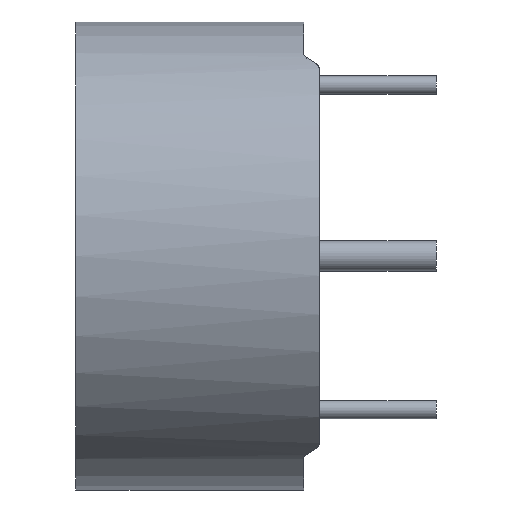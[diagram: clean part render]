
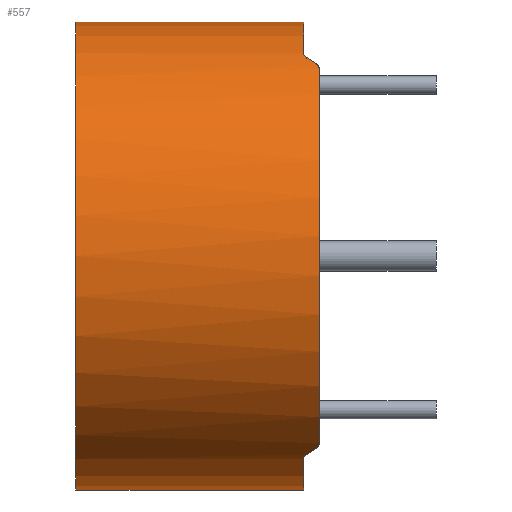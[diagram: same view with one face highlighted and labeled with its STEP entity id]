
A CAD part, left-side view. The second image highlights one B-rep face of the part: STEP entity #557.
In plain terms, the highlighted cylindrical face has radius 19.05 mm (diameter 38.1 mm), a partial arc.
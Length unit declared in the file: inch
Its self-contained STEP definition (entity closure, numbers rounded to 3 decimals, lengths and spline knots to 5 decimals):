
#28 = VERTEX_POINT ( 'NONE', #1427 ) ;
#60 = CARTESIAN_POINT ( 'NONE',  ( -0.44993, -0.39, -0.60006 ) ) ;
#83 = CARTESIAN_POINT ( 'NONE',  ( 0., 0.39, 0.75 ) ) ;
#173 = CARTESIAN_POINT ( 'NONE',  ( -0.42871, -0.38121, -0.61539 ) ) ;
#276 = LINE ( 'NONE', #1136, #8205 ) ;
#359 = ORIENTED_EDGE ( 'NONE', *, *, #7092, .T. ) ;
#473 = CARTESIAN_POINT ( 'NONE',  ( -0.42871, -0.38121, 0.61539 ) ) ;
#557 = ADVANCED_FACE ( 'NONE', ( #7185 ), #10107, .T. ) ;
#561 = CARTESIAN_POINT ( 'NONE',  ( -0.44993, -0.39, 0.60006 ) ) ;
#573 = VERTEX_POINT ( 'NONE', #4069 ) ;
#618 = VERTEX_POINT ( 'NONE', #3246 ) ;
#739 = DIRECTION ( 'NONE',  ( 0., 0., -1. ) ) ;
#744 = CARTESIAN_POINT ( 'NONE',  ( -0.37507, -0.34, -0.64948 ) ) ;
#778 = CARTESIAN_POINT ( 'NONE',  ( -0.40728, -0.35978, -0.62991 ) ) ;
#797 = CARTESIAN_POINT ( 'NONE',  ( 0., 0.39, 0. ) ) ;
#1079 = CARTESIAN_POINT ( 'NONE',  ( 0., -0.34, 0. ) ) ;
#1100 = EDGE_CURVE ( 'NONE', #5302, #573, #3540, .T. ) ;
#1136 = CARTESIAN_POINT ( 'NONE',  ( 0., 0.39, 0.75 ) ) ;
#1243 = AXIS2_PLACEMENT_3D ( 'NONE', #2590, #4744, #1828 ) ;
#1347 = CARTESIAN_POINT ( 'NONE',  ( -0.39336, -0.34586, -0.63857 ) ) ;
#1427 = CARTESIAN_POINT ( 'NONE',  ( -0.37507, -0.34, 0.64948 ) ) ;
#1555 = CARTESIAN_POINT ( 'NONE',  ( -0.41809, -0.37059, 0.62279 ) ) ;
#1828 = DIRECTION ( 'NONE',  ( 0., 0., 1. ) ) ;
#1834 = EDGE_CURVE ( 'NONE', #9110, #9541, #4935, .T. ) ;
#1853 = CARTESIAN_POINT ( 'NONE',  ( -0.42871, -0.38121, 0.61539 ) ) ;
#2039 = CARTESIAN_POINT ( 'NONE',  ( -0.39629, -0.34879, 0.63675 ) ) ;
#2055 = EDGE_CURVE ( 'NONE', #6347, #4600, #9904, .T. ) ;
#2059 = CARTESIAN_POINT ( 'NONE',  ( -0.42871, -0.38121, -0.61539 ) ) ;
#2070 = CARTESIAN_POINT ( 'NONE',  ( -0.37507, -0.34, -0.64948 ) ) ;
#2170 = CARTESIAN_POINT ( 'NONE',  ( -0.40728, -0.35978, 0.62991 ) ) ;
#2220 = CARTESIAN_POINT ( 'NONE',  ( -0.38274, -0.34073, -0.645 ) ) ;
#2221 = ORIENTED_EDGE ( 'NONE', *, *, #1834, .F. ) ;
#2306 = EDGE_CURVE ( 'NONE', #9541, #618, #276, .T. ) ;
#2315 = DIRECTION ( 'NONE',  ( 0., -1., 0. ) ) ;
#2489 = B_SPLINE_CURVE_WITH_KNOTS ( 'NONE', 3,
 ( #6659, #9009, #4306, #4212, #2568, #1853 ),
 .UNSPECIFIED., .F., .F.,
 ( 4, 2, 4 ),
 ( 0., 0.00036, 0.00071 ),
 .UNSPECIFIED. ) ;
#2568 = CARTESIAN_POINT ( 'NONE',  ( -0.43173, -0.38423, 0.61329 ) ) ;
#2590 = CARTESIAN_POINT ( 'NONE',  ( 0., -0.34, 0. ) ) ;
#2804 = CARTESIAN_POINT ( 'NONE',  ( -0.39045, -0.34295, 0.64039 ) ) ;
#2974 = CARTESIAN_POINT ( 'NONE',  ( -0.43472, -0.38722, -0.6112 ) ) ;
#3204 = CIRCLE ( 'NONE', #4348, 0.75 ) ;
#3246 = CARTESIAN_POINT ( 'NONE',  ( 0., -0.34, 0.75 ) ) ;
#3342 = CARTESIAN_POINT ( 'NONE',  ( 0., 0.39, -0.75 ) ) ;
#3535 = ORIENTED_EDGE ( 'NONE', *, *, #6886, .T. ) ;
#3540 = B_SPLINE_CURVE_WITH_KNOTS ( 'NONE', 3,
 ( #2070, #6112, #2220, #5346, #1347, #3601 ),
 .UNSPECIFIED., .F., .F.,
 ( 4, 2, 4 ),
 ( 0., 0.00034, 0.00067 ),
 .UNSPECIFIED. ) ;
#3601 = CARTESIAN_POINT ( 'NONE',  ( -0.39629, -0.34879, -0.63675 ) ) ;
#3721 =( BOUNDED_CURVE ( )  B_SPLINE_CURVE ( 3, ( #10004, #1555, #2170, #4683 ),
 .UNSPECIFIED., .F., .F. ) 
 B_SPLINE_CURVE_WITH_KNOTS ( ( 4, 4 ),
 ( 0.96232, 1.0141 ),
 .UNSPECIFIED. ) 
 CURVE ( )  GEOMETRIC_REPRESENTATION_ITEM ( )  RATIONAL_B_SPLINE_CURVE ( ( 1., 1., 1., 1. ) ) 
 REPRESENTATION_ITEM ( '' )  );
#3822 = VERTEX_POINT ( 'NONE', #561 ) ;
#4050 = EDGE_LOOP ( 'NONE', ( #4358, #2221, #9771, #8301, #5642, #359, #5993, #9307, #3535, #4197, #9700, #10095 ) ) ;
#4054 = CARTESIAN_POINT ( 'NONE',  ( -0.39629, -0.34879, -0.63675 ) ) ;
#4069 = CARTESIAN_POINT ( 'NONE',  ( -0.39629, -0.34879, -0.63675 ) ) ;
#4197 = ORIENTED_EDGE ( 'NONE', *, *, #6055, .T. ) ;
#4212 = CARTESIAN_POINT ( 'NONE',  ( -0.43514, -0.3864, 0.61088 ) ) ;
#4306 = CARTESIAN_POINT ( 'NONE',  ( -0.44242, -0.38931, 0.60563 ) ) ;
#4348 = AXIS2_PLACEMENT_3D ( 'NONE', #1079, #8905, #8136 ) ;
#4358 = ORIENTED_EDGE ( 'NONE', *, *, #2306, .F. ) ;
#4435 =( BOUNDED_CURVE ( )  B_SPLINE_CURVE ( 3, ( #4054, #778, #7170, #173 ),
 .UNSPECIFIED., .F., .F. ) 
 B_SPLINE_CURVE_WITH_KNOTS ( ( 4, 4 ),
 ( 5.26908, 5.32086 ),
 .UNSPECIFIED. ) 
 CURVE ( )  GEOMETRIC_REPRESENTATION_ITEM ( )  RATIONAL_B_SPLINE_CURVE ( ( 1., 1., 1., 1. ) ) 
 REPRESENTATION_ITEM ( '' )  );
#4600 = VERTEX_POINT ( 'NONE', #60 ) ;
#4668 = CARTESIAN_POINT ( 'NONE',  ( -0.42871, -0.38121, -0.61539 ) ) ;
#4683 = CARTESIAN_POINT ( 'NONE',  ( -0.39629, -0.34879, 0.63675 ) ) ;
#4744 = DIRECTION ( 'NONE',  ( 0., 1., 0. ) ) ;
#4922 = VERTEX_POINT ( 'NONE', #9763 ) ;
#4935 = CIRCLE ( 'NONE', #8362, 0.75 ) ;
#5013 = CARTESIAN_POINT ( 'NONE',  ( -0.38287, -0.34, 0.64498 ) ) ;
#5135 = EDGE_CURVE ( 'NONE', #9822, #5302, #5492, .T. ) ;
#5221 = CARTESIAN_POINT ( 'NONE',  ( 0., -0.34, -0.75 ) ) ;
#5302 = VERTEX_POINT ( 'NONE', #744 ) ;
#5346 = CARTESIAN_POINT ( 'NONE',  ( -0.38998, -0.34368, -0.64065 ) ) ;
#5492 = CIRCLE ( 'NONE', #1243, 0.75 ) ;
#5532 = DIRECTION ( 'NONE',  ( 0., -1., 0. ) ) ;
#5642 = ORIENTED_EDGE ( 'NONE', *, *, #1100, .T. ) ;
#5713 = B_SPLINE_CURVE_WITH_KNOTS ( 'NONE', 3,
 ( #2039, #2804, #5013, #9816 ),
 .UNSPECIFIED., .F., .F.,
 ( 4, 4 ),
 ( 0., 0.00068 ),
 .UNSPECIFIED. ) ;
#5993 = ORIENTED_EDGE ( 'NONE', *, *, #2055, .T. ) ;
#6055 = EDGE_CURVE ( 'NONE', #7797, #4922, #3721, .T. ) ;
#6104 = CARTESIAN_POINT ( 'NONE',  ( -0.44237, -0.39, -0.60572 ) ) ;
#6112 = CARTESIAN_POINT ( 'NONE',  ( -0.37898, -0.34, -0.64722 ) ) ;
#6120 = DIRECTION ( 'NONE',  ( 0., 1., 0. ) ) ;
#6299 = LINE ( 'NONE', #9423, #10062 ) ;
#6318 = CIRCLE ( 'NONE', #7297, 0.75 ) ;
#6347 = VERTEX_POINT ( 'NONE', #4668 ) ;
#6659 = CARTESIAN_POINT ( 'NONE',  ( -0.44993, -0.39, 0.60006 ) ) ;
#6886 = EDGE_CURVE ( 'NONE', #3822, #7797, #2489, .T. ) ;
#7040 = CARTESIAN_POINT ( 'NONE',  ( 0., -0.39, 0. ) ) ;
#7063 = EDGE_CURVE ( 'NONE', #9110, #9822, #6299, .T. ) ;
#7092 = EDGE_CURVE ( 'NONE', #573, #6347, #4435, .T. ) ;
#7170 = CARTESIAN_POINT ( 'NONE',  ( -0.41809, -0.37059, -0.62279 ) ) ;
#7185 = FACE_OUTER_BOUND ( 'NONE', #4050, .T. ) ;
#7297 = AXIS2_PLACEMENT_3D ( 'NONE', #7040, #6120, #8680 ) ;
#7421 = DIRECTION ( 'NONE',  ( 0., -1., 0. ) ) ;
#7797 = VERTEX_POINT ( 'NONE', #473 ) ;
#7860 = DIRECTION ( 'NONE',  ( 0., 0., 1. ) ) ;
#8136 = DIRECTION ( 'NONE',  ( 0., 0., 1. ) ) ;
#8162 = EDGE_CURVE ( 'NONE', #28, #618, #3204, .T. ) ;
#8205 = VECTOR ( 'NONE', #7421, 39.37008 ) ;
#8301 = ORIENTED_EDGE ( 'NONE', *, *, #5135, .T. ) ;
#8362 = AXIS2_PLACEMENT_3D ( 'NONE', #797, #9392, #7860 ) ;
#8680 = DIRECTION ( 'NONE',  ( 0., 0., 1. ) ) ;
#8721 = EDGE_CURVE ( 'NONE', #4600, #3822, #6318, .T. ) ;
#8905 = DIRECTION ( 'NONE',  ( 0., 1., 0. ) ) ;
#9009 = CARTESIAN_POINT ( 'NONE',  ( -0.44614, -0.39, 0.60289 ) ) ;
#9043 = AXIS2_PLACEMENT_3D ( 'NONE', #9333, #2315, #739 ) ;
#9110 = VERTEX_POINT ( 'NONE', #3342 ) ;
#9307 = ORIENTED_EDGE ( 'NONE', *, *, #8721, .T. ) ;
#9333 = CARTESIAN_POINT ( 'NONE',  ( 0., 0.39, 0. ) ) ;
#9392 = DIRECTION ( 'NONE',  ( 0., 1., 0. ) ) ;
#9423 = CARTESIAN_POINT ( 'NONE',  ( 0., 0.39, -0.75 ) ) ;
#9541 = VERTEX_POINT ( 'NONE', #83 ) ;
#9700 = ORIENTED_EDGE ( 'NONE', *, *, #9962, .T. ) ;
#9763 = CARTESIAN_POINT ( 'NONE',  ( -0.39629, -0.34879, 0.63675 ) ) ;
#9771 = ORIENTED_EDGE ( 'NONE', *, *, #7063, .T. ) ;
#9816 = CARTESIAN_POINT ( 'NONE',  ( -0.37507, -0.34, 0.64948 ) ) ;
#9822 = VERTEX_POINT ( 'NONE', #5221 ) ;
#9834 = CARTESIAN_POINT ( 'NONE',  ( -0.44993, -0.39, -0.60006 ) ) ;
#9904 = B_SPLINE_CURVE_WITH_KNOTS ( 'NONE', 3,
 ( #2059, #2974, #6104, #9834 ),
 .UNSPECIFIED., .F., .F.,
 ( 4, 4 ),
 ( 0., 0.00071 ),
 .UNSPECIFIED. ) ;
#9962 = EDGE_CURVE ( 'NONE', #4922, #28, #5713, .T. ) ;
#10004 = CARTESIAN_POINT ( 'NONE',  ( -0.42871, -0.38121, 0.61539 ) ) ;
#10062 = VECTOR ( 'NONE', #5532, 39.37008 ) ;
#10095 = ORIENTED_EDGE ( 'NONE', *, *, #8162, .T. ) ;
#10107 = CYLINDRICAL_SURFACE ( 'NONE', #9043, 0.75 ) ;
